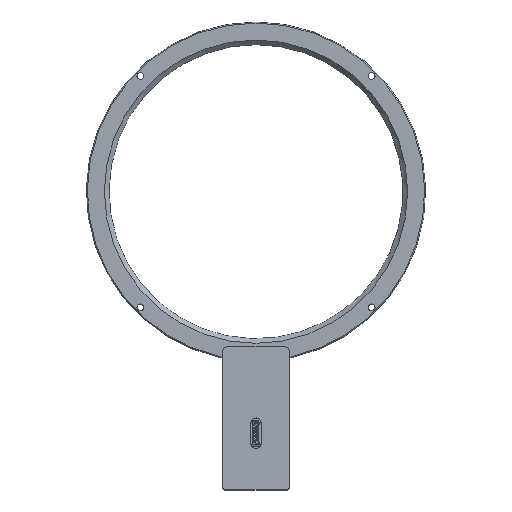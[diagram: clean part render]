
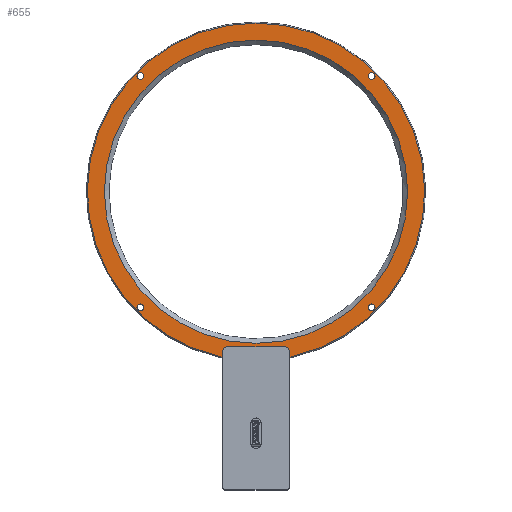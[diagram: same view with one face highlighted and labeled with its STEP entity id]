
A CAD part, top view. The second image highlights one B-rep face of the part: STEP entity #655.
In plain terms, the highlighted planar face has unit normal (0, 0, 1).
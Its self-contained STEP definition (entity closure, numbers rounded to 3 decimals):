
#26 = CARTESIAN_POINT ( 'NONE',  ( -14.054, -43.163, 15.949 ) ) ;
#67 = EDGE_CURVE ( 'NONE', #1795, #3362, #218, .T. ) ;
#68 = DIRECTION ( 'NONE',  ( 0., 0., 1. ) ) ;
#74 = CARTESIAN_POINT ( 'NONE',  ( -84.872, 92.943, 15.949 ) ) ;
#99 = CARTESIAN_POINT ( 'NONE',  ( -42.554, -43.163, 15.949 ) ) ;
#121 = EDGE_LOOP ( 'NONE', ( #3209, #807, #6257, #2685, #5785, #2576, #5165, #4942 ) ) ;
#122 = CIRCLE ( 'NONE', #3878, 82.5 ) ;
#139 = EDGE_CURVE ( 'NONE', #3360, #272, #3966, .T. ) ;
#144 = DIRECTION ( 'NONE',  ( 0., 1., 0. ) ) ;
#218 = CIRCLE ( 'NONE', #638, 2. ) ;
#244 = LINE ( 'NONE', #3339, #2451 ) ;
#272 = VERTEX_POINT ( 'NONE', #2015 ) ;
#317 = DIRECTION ( 'NONE',  ( 0., -1., 0. ) ) ;
#354 = FACE_OUTER_BOUND ( 'NONE', #121, .T. ) ;
#377 = EDGE_CURVE ( 'NONE', #4100, #4100, #3430, .T. ) ;
#388 = FACE_BOUND ( 'NONE', #4913, .T. ) ;
#596 = DIRECTION ( 'NONE',  ( 0., 0., 1. ) ) ;
#597 = EDGE_LOOP ( 'NONE', ( #3621 ) ) ;
#609 = ORIENTED_EDGE ( 'NONE', *, *, #4519, .F. ) ;
#638 = AXIS2_PLACEMENT_3D ( 'NONE', #26, #2010, #4046 ) ;
#655 = ADVANCED_FACE ( 'NONE', ( #5418, #388, #1878, #5319, #2345, #354 ), #2424, .F. ) ;
#782 = DIRECTION ( 'NONE',  ( -1., 0., 0. ) ) ;
#807 = ORIENTED_EDGE ( 'NONE', *, *, #1109, .T. ) ;
#895 = DIRECTION ( 'NONE',  ( 0., 1., 0. ) ) ;
#941 = LINE ( 'NONE', #5971, #3024 ) ;
#963 = AXIS2_PLACEMENT_3D ( 'NONE', #99, #4188, #5098 ) ;
#973 = VERTEX_POINT ( 'NONE', #2096 ) ;
#996 = CIRCLE ( 'NONE', #4629, 1.65 ) ;
#1026 = CARTESIAN_POINT ( 'NONE',  ( -28.304, 108.896, 15.949 ) ) ;
#1044 = AXIS2_PLACEMENT_3D ( 'NONE', #2493, #5493, #2008 ) ;
#1088 = DIRECTION ( 'NONE',  ( 0., 1., 0. ) ) ;
#1109 = EDGE_CURVE ( 'NONE', #1795, #1900, #3912, .T. ) ;
#1136 = ORIENTED_EDGE ( 'NONE', *, *, #3327, .F. ) ;
#1189 = ORIENTED_EDGE ( 'NONE', *, *, #377, .F. ) ;
#1242 = CARTESIAN_POINT ( 'NONE',  ( -11.106, -45.963, 15.949 ) ) ;
#1743 = EDGE_CURVE ( 'NONE', #1900, #2398, #2343, .T. ) ;
#1795 = VERTEX_POINT ( 'NONE', #5631 ) ;
#1807 = DIRECTION ( 'NONE',  ( 0., 0., 1. ) ) ;
#1878 = FACE_BOUND ( 'NONE', #2341, .T. ) ;
#1900 = VERTEX_POINT ( 'NONE', #4758 ) ;
#1905 = DIRECTION ( 'NONE',  ( 0., 0., 1. ) ) ;
#2008 = DIRECTION ( 'NONE',  ( 0., 1., 0. ) ) ;
#2010 = DIRECTION ( 'NONE',  ( 0., 0., 1. ) ) ;
#2015 = CARTESIAN_POINT ( 'NONE',  ( -44.554, -43.163, 15.949 ) ) ;
#2030 = CARTESIAN_POINT ( 'NONE',  ( -28.304, 34.724, 15.949 ) ) ;
#2096 = CARTESIAN_POINT ( 'NONE',  ( -84.872, -20.194, 15.949 ) ) ;
#2241 = DIRECTION ( 'NONE',  ( 0., 1., 0. ) ) ;
#2282 = EDGE_CURVE ( 'NONE', #2398, #4148, #122, .T. ) ;
#2341 = EDGE_LOOP ( 'NONE', ( #6452 ) ) ;
#2343 = LINE ( 'NONE', #2805, #5659 ) ;
#2345 = FACE_BOUND ( 'NONE', #6196, .T. ) ;
#2376 = DIRECTION ( 'NONE',  ( 1., 0., 0. ) ) ;
#2398 = VERTEX_POINT ( 'NONE', #1242 ) ;
#2424 = PLANE ( 'NONE',  #5883 ) ;
#2446 = DIRECTION ( 'NONE',  ( 1., 0., 0. ) ) ;
#2451 = VECTOR ( 'NONE', #2241, 1000. ) ;
#2493 = CARTESIAN_POINT ( 'NONE',  ( 28.265, 91.293, 15.949 ) ) ;
#2509 = CIRCLE ( 'NONE', #3456, 74.171 ) ;
#2547 = CARTESIAN_POINT ( 'NONE',  ( -45.501, -45.963, 15.949 ) ) ;
#2576 = ORIENTED_EDGE ( 'NONE', *, *, #6431, .T. ) ;
#2644 = CIRCLE ( 'NONE', #6360, 1.65 ) ;
#2685 = ORIENTED_EDGE ( 'NONE', *, *, #2282, .T. ) ;
#2801 = AXIS2_PLACEMENT_3D ( 'NONE', #3306, #3343, #144 ) ;
#2805 = CARTESIAN_POINT ( 'NONE',  ( -102.475, -45.963, 15.949 ) ) ;
#2838 = EDGE_CURVE ( 'NONE', #973, #973, #4590, .T. ) ;
#3024 = VECTOR ( 'NONE', #2446, 1000. ) ;
#3130 = DIRECTION ( 'NONE',  ( 0., 0., -1. ) ) ;
#3165 = DIRECTION ( 'NONE',  ( 0., -1., 0. ) ) ;
#3209 = ORIENTED_EDGE ( 'NONE', *, *, #67, .F. ) ;
#3306 = CARTESIAN_POINT ( 'NONE',  ( -84.872, -21.844, 15.949 ) ) ;
#3327 = EDGE_CURVE ( 'NONE', #5650, #5650, #2509, .T. ) ;
#3339 = CARTESIAN_POINT ( 'NONE',  ( -44.554, -99.163, 15.949 ) ) ;
#3343 = DIRECTION ( 'NONE',  ( 0., 0., 1. ) ) ;
#3360 = VERTEX_POINT ( 'NONE', #5713 ) ;
#3362 = VERTEX_POINT ( 'NONE', #3757 ) ;
#3430 = CIRCLE ( 'NONE', #1044, 1.65 ) ;
#3456 = AXIS2_PLACEMENT_3D ( 'NONE', #4179, #596, #1088 ) ;
#3621 = ORIENTED_EDGE ( 'NONE', *, *, #5270, .F. ) ;
#3717 = CARTESIAN_POINT ( 'NONE',  ( -44.554, -45.963, 15.949 ) ) ;
#3737 = EDGE_CURVE ( 'NONE', #3362, #3360, #5360, .T. ) ;
#3757 = CARTESIAN_POINT ( 'NONE',  ( -14.054, -41.163, 15.949 ) ) ;
#3878 = AXIS2_PLACEMENT_3D ( 'NONE', #2030, #1905, #3937 ) ;
#3912 = LINE ( 'NONE', #6546, #6095 ) ;
#3937 = DIRECTION ( 'NONE',  ( 0., -1., 0. ) ) ;
#3966 = CIRCLE ( 'NONE', #963, 2. ) ;
#4046 = DIRECTION ( 'NONE',  ( -1., 0., 0. ) ) ;
#4100 = VERTEX_POINT ( 'NONE', #6105 ) ;
#4117 = DIRECTION ( 'NONE',  ( 0., 1., 0. ) ) ;
#4148 = VERTEX_POINT ( 'NONE', #2547 ) ;
#4159 = CARTESIAN_POINT ( 'NONE',  ( 28.265, -20.194, 15.949 ) ) ;
#4179 = CARTESIAN_POINT ( 'NONE',  ( -28.304, 34.724, 15.949 ) ) ;
#4188 = DIRECTION ( 'NONE',  ( 0., 0., 1. ) ) ;
#4479 = VECTOR ( 'NONE', #782, 1000. ) ;
#4519 = EDGE_CURVE ( 'NONE', #4619, #4619, #996, .T. ) ;
#4590 = CIRCLE ( 'NONE', #2801, 1.65 ) ;
#4619 = VERTEX_POINT ( 'NONE', #4159 ) ;
#4629 = AXIS2_PLACEMENT_3D ( 'NONE', #4827, #1807, #895 ) ;
#4758 = CARTESIAN_POINT ( 'NONE',  ( -12.054, -45.963, 15.949 ) ) ;
#4827 = CARTESIAN_POINT ( 'NONE',  ( 28.265, -21.844, 15.949 ) ) ;
#4856 = CARTESIAN_POINT ( 'NONE',  ( -14.054, -41.163, 15.949 ) ) ;
#4876 = EDGE_CURVE ( 'NONE', #4148, #6037, #941, .T. ) ;
#4913 = EDGE_LOOP ( 'NONE', ( #609 ) ) ;
#4942 = ORIENTED_EDGE ( 'NONE', *, *, #3737, .F. ) ;
#5098 = DIRECTION ( 'NONE',  ( -1., 0., 0. ) ) ;
#5146 = EDGE_LOOP ( 'NONE', ( #1189 ) ) ;
#5165 = ORIENTED_EDGE ( 'NONE', *, *, #139, .F. ) ;
#5170 = VERTEX_POINT ( 'NONE', #74 ) ;
#5270 = EDGE_CURVE ( 'NONE', #5170, #5170, #2644, .T. ) ;
#5319 = FACE_BOUND ( 'NONE', #597, .T. ) ;
#5360 = LINE ( 'NONE', #4856, #4479 ) ;
#5418 = FACE_BOUND ( 'NONE', #5146, .T. ) ;
#5462 = CARTESIAN_POINT ( 'NONE',  ( -102.475, 34.724, 15.949 ) ) ;
#5493 = DIRECTION ( 'NONE',  ( 0., 0., 1. ) ) ;
#5631 = CARTESIAN_POINT ( 'NONE',  ( -12.054, -43.163, 15.949 ) ) ;
#5650 = VERTEX_POINT ( 'NONE', #1026 ) ;
#5659 = VECTOR ( 'NONE', #2376, 1000. ) ;
#5713 = CARTESIAN_POINT ( 'NONE',  ( -42.554, -41.163, 15.949 ) ) ;
#5785 = ORIENTED_EDGE ( 'NONE', *, *, #4876, .T. ) ;
#5883 = AXIS2_PLACEMENT_3D ( 'NONE', #5462, #3130, #3165 ) ;
#5971 = CARTESIAN_POINT ( 'NONE',  ( -102.475, -45.963, 15.949 ) ) ;
#6037 = VERTEX_POINT ( 'NONE', #3717 ) ;
#6095 = VECTOR ( 'NONE', #317, 1000. ) ;
#6105 = CARTESIAN_POINT ( 'NONE',  ( 28.265, 92.943, 15.949 ) ) ;
#6196 = EDGE_LOOP ( 'NONE', ( #1136 ) ) ;
#6257 = ORIENTED_EDGE ( 'NONE', *, *, #1743, .T. ) ;
#6360 = AXIS2_PLACEMENT_3D ( 'NONE', #6589, #68, #4117 ) ;
#6431 = EDGE_CURVE ( 'NONE', #6037, #272, #244, .T. ) ;
#6452 = ORIENTED_EDGE ( 'NONE', *, *, #2838, .F. ) ;
#6546 = CARTESIAN_POINT ( 'NONE',  ( -12.054, -99.163, 15.949 ) ) ;
#6589 = CARTESIAN_POINT ( 'NONE',  ( -84.872, 91.293, 15.949 ) ) ;
